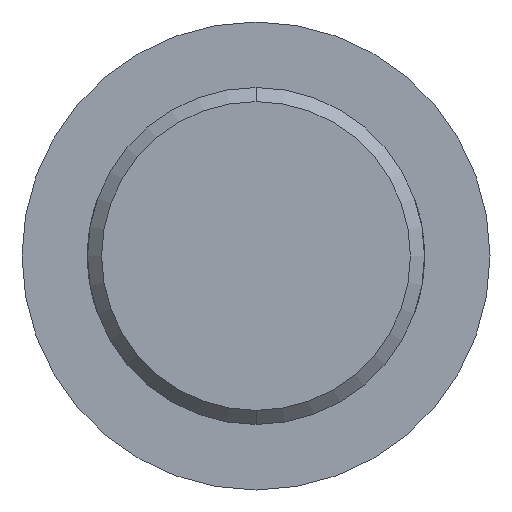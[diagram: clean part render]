
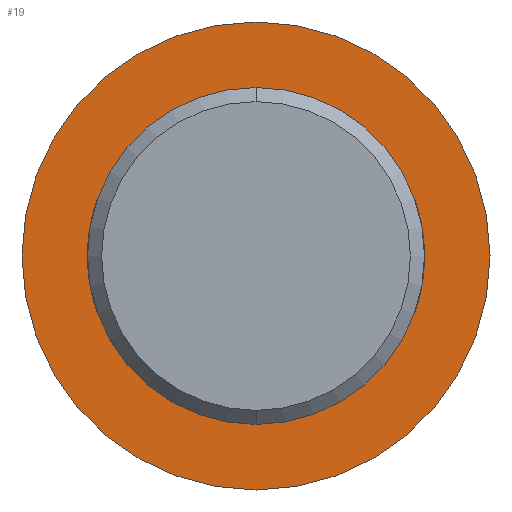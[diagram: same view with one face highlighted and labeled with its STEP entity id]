
A CAD part, front view. The second image highlights one B-rep face of the part: STEP entity #19.
In plain terms, the highlighted planar face has unit normal (0, -1, 0).
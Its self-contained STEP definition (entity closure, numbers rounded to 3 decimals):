
#7 = AXIS2_PLACEMENT_3D ( 'NONE', #239, #479, #530 ) ;
#11 = CIRCLE ( 'NONE', #64, 9. ) ;
#19 = ADVANCED_FACE ( 'NONE', ( #201, #292 ), #242, .F. ) ;
#28 = ORIENTED_EDGE ( 'NONE', *, *, #32, .F. ) ;
#31 = AXIS2_PLACEMENT_3D ( 'NONE', #326, #401, #408 ) ;
#32 = EDGE_CURVE ( 'NONE', #399, #280, #442, .T. ) ;
#64 = AXIS2_PLACEMENT_3D ( 'NONE', #439, #441, #330 ) ;
#95 = CARTESIAN_POINT ( 'NONE',  ( 0., 0., 0. ) ) ;
#104 = AXIS2_PLACEMENT_3D ( 'NONE', #95, #123, #174 ) ;
#108 = EDGE_CURVE ( 'NONE', #280, #399, #176, .T. ) ;
#123 = DIRECTION ( 'NONE',  ( 0., -1., 0. ) ) ;
#130 = DIRECTION ( 'NONE',  ( 0., 1., 0. ) ) ;
#133 = DIRECTION ( 'NONE',  ( 0., 0., 1. ) ) ;
#150 = EDGE_CURVE ( 'NONE', #206, #443, #227, .T. ) ;
#174 = DIRECTION ( 'NONE',  ( 0., 0., -1. ) ) ;
#176 = CIRCLE ( 'NONE', #294, 12.5 ) ;
#201 = FACE_BOUND ( 'NONE', #285, .T. ) ;
#206 = VERTEX_POINT ( 'NONE', #317 ) ;
#224 = CARTESIAN_POINT ( 'NONE',  ( 0., 0., 12.5 ) ) ;
#227 = CIRCLE ( 'NONE', #104, 9. ) ;
#239 = CARTESIAN_POINT ( 'NONE',  ( 0., 0., 0. ) ) ;
#242 = PLANE ( 'NONE',  #7 ) ;
#259 = CARTESIAN_POINT ( 'NONE',  ( 0., 0., -12.5 ) ) ;
#265 = ORIENTED_EDGE ( 'NONE', *, *, #475, .F. ) ;
#280 = VERTEX_POINT ( 'NONE', #259 ) ;
#285 = EDGE_LOOP ( 'NONE', ( #487, #265 ) ) ;
#292 = FACE_OUTER_BOUND ( 'NONE', #357, .T. ) ;
#294 = AXIS2_PLACEMENT_3D ( 'NONE', #502, #130, #133 ) ;
#317 = CARTESIAN_POINT ( 'NONE',  ( 0., 0., 9. ) ) ;
#326 = CARTESIAN_POINT ( 'NONE',  ( 0., 0., 0. ) ) ;
#330 = DIRECTION ( 'NONE',  ( 0., 0., -1. ) ) ;
#357 = EDGE_LOOP ( 'NONE', ( #481, #28 ) ) ;
#363 = CARTESIAN_POINT ( 'NONE',  ( 0., 0., -9. ) ) ;
#399 = VERTEX_POINT ( 'NONE', #224 ) ;
#401 = DIRECTION ( 'NONE',  ( 0., 1., 0. ) ) ;
#408 = DIRECTION ( 'NONE',  ( 0., 0., 1. ) ) ;
#439 = CARTESIAN_POINT ( 'NONE',  ( 0., 0., 0. ) ) ;
#441 = DIRECTION ( 'NONE',  ( 0., -1., 0. ) ) ;
#442 = CIRCLE ( 'NONE', #31, 12.5 ) ;
#443 = VERTEX_POINT ( 'NONE', #363 ) ;
#475 = EDGE_CURVE ( 'NONE', #443, #206, #11, .T. ) ;
#479 = DIRECTION ( 'NONE',  ( 0., 1., 0. ) ) ;
#481 = ORIENTED_EDGE ( 'NONE', *, *, #108, .F. ) ;
#487 = ORIENTED_EDGE ( 'NONE', *, *, #150, .F. ) ;
#502 = CARTESIAN_POINT ( 'NONE',  ( 0., 0., 0. ) ) ;
#530 = DIRECTION ( 'NONE',  ( 0., 0., 1. ) ) ;
